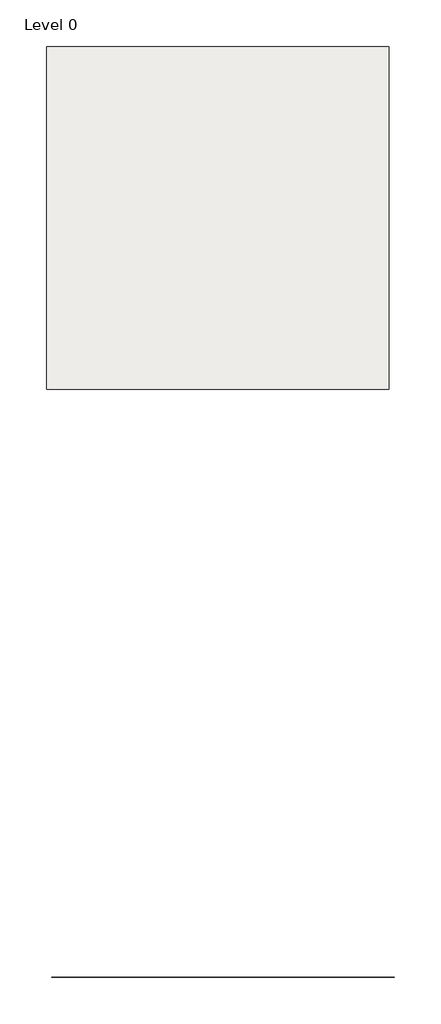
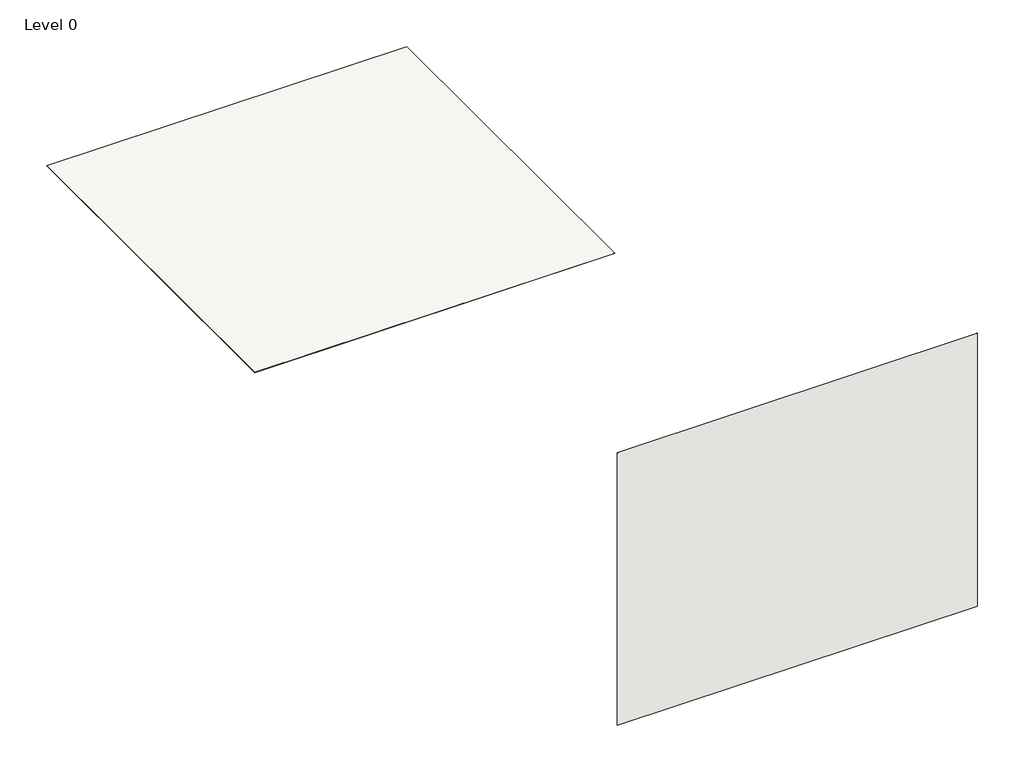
# One storey: 2 coverings.
"""IFC4 building model written with IfcOpenShell, lengths in millimetres."""

from ifc_helpers import new_model, si_unit, frame, origin, origin_with_axes, place, context, project, spatial, polyline, outline, extrude, element, save

model = new_model("IFC4")

# Units and contexts
model_context = context("Model", 3, world=origin())
ifc_project = project(units=[si_unit("LENGTHUNIT", "METRE", prefix="MILLI")], contexts=[model_context])

# Site, building, storey
site = spatial("IfcSite", under=ifc_project)
building = spatial("IfcBuilding", under=site)
storey = spatial("IfcBuildingStorey", under=building, Name="Level 0", Elevation=0.0)

# Coverings
placement = place(None, origin())
element("IfcCovering", 1, ObjectType="NBS_DeltaMembraneSystemsLtd_PlasticsSheets_ProTitanTank", at=placement, inside=storey, context=model_context, shape_type="SweptSolid", body=[
    extrude(outline(polyline([(1524.0, -6024.0), (1524.0, -3524.0), (4024.0, -3524.0), (4024.0, -6024.0), (1524.0, -6024.0)])), frame((0.0, 0.0, -1.2), z_axis=(0.0, 0.0, 1.0), x_axis=(1.0, 0.0, 0.0)), (0.0, 0.0, 1.0), 1.2),
])
element("IfcCovering", 2, ObjectType="NBS_DeltaMembraneSystemsLtd_PlasticsSheets_ProTitanTank", at=placement, inside=storey, context=model_context, shape_type="SweptSolid", body=[
    extrude(outline(polyline([(1563.169524, -10315.7461553), (4063.169524, -10315.7461553), (4063.169524, -10316.9461553), (1563.169524, -10316.9461553), (1563.169524, -10315.7461553)])), origin_with_axes(), (0.0, 0.0, 1.0), 2000.0),
])

save(model, "model.ifc")
